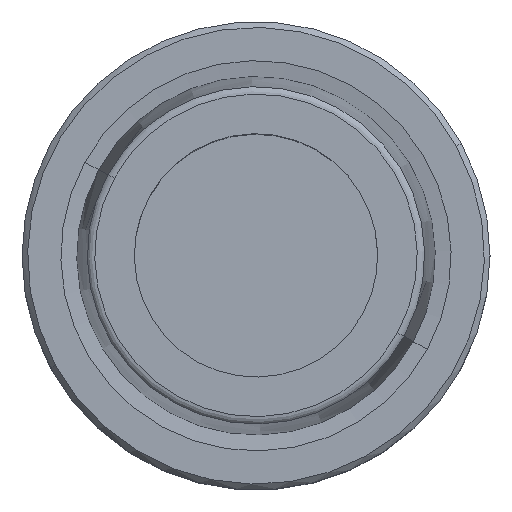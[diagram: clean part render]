
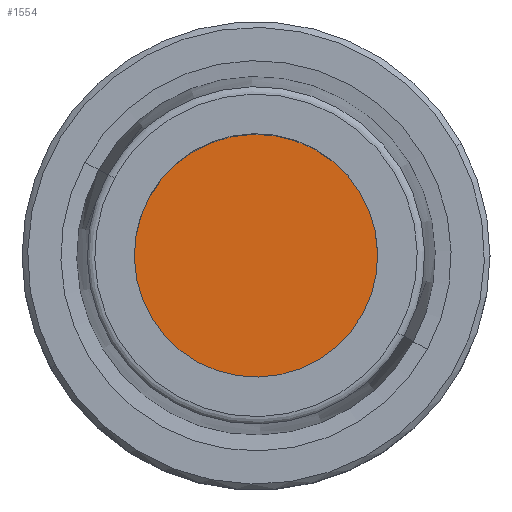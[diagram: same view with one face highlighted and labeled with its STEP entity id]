
A CAD part, top view. The second image highlights one B-rep face of the part: STEP entity #1554.
In plain terms, the highlighted planar face has unit normal (0, 0, 1).
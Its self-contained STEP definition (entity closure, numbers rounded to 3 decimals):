
#1523=AXIS2_PLACEMENT_3D('Circle Axis2P3D',#1521,#1522,$) ;
#1535=AXIS2_PLACEMENT_3D('Circle Axis2P3D',#1533,#1534,$) ;
#1548=AXIS2_PLACEMENT_3D('Plane Axis2P3D',#1545,#1546,#1547) ;
#1511=CARTESIAN_POINT('Vertex',(11.409,-6.233,-10.)) ;
#1518=CARTESIAN_POINT('Vertex',(-11.409,6.233,-10.)) ;
#1521=CARTESIAN_POINT('Axis2P3D Location',(0.,0.,-10.)) ;
#1533=CARTESIAN_POINT('Axis2P3D Location',(0.,0.,-10.)) ;
#1545=CARTESIAN_POINT('Axis2P3D Location',(-11.8,0.,-10.)) ;
#1522=DIRECTION('Axis2P3D Direction',(0.,0.,-1.)) ;
#1534=DIRECTION('Axis2P3D Direction',(0.,0.,-1.)) ;
#1546=DIRECTION('Axis2P3D Direction',(0.,0.,-1.)) ;
#1547=DIRECTION('Axis2P3D XDirection',(0.,1.,0.)) ;
#1551=ORIENTED_EDGE('',*,*,#1525,.F.) ;
#1552=ORIENTED_EDGE('',*,*,#1537,.F.) ;
#1554=ADVANCED_FACE('NOCUT',(#1553),#1549,.F.) ;
#1524=CIRCLE('generated circle',#1523,13.) ;
#1536=CIRCLE('generated circle',#1535,13.) ;
#1525=EDGE_CURVE('',#1519,#1512,#1524,.T.) ;
#1537=EDGE_CURVE('',#1512,#1519,#1536,.T.) ;
#1550=EDGE_LOOP('',(#1551,#1552)) ;
#1553=FACE_OUTER_BOUND('',#1550,.T.) ;
#1549=PLANE('',#1548) ;
#1512=VERTEX_POINT('',#1511) ;
#1519=VERTEX_POINT('',#1518) ;
